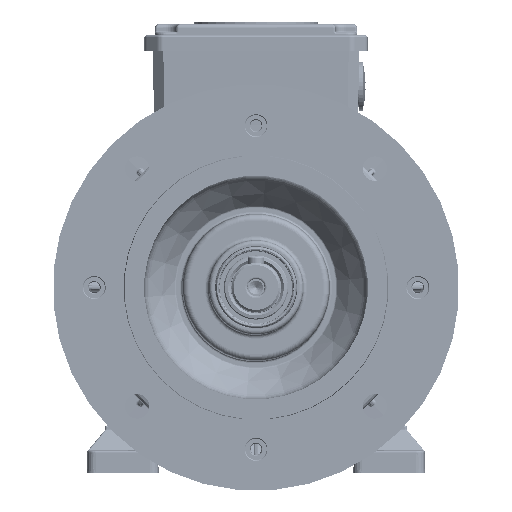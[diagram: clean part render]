
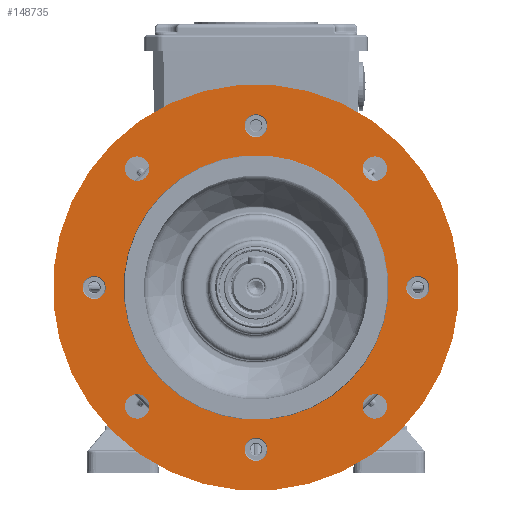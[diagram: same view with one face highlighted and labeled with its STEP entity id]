
A CAD part, left-side view. The second image highlights one B-rep face of the part: STEP entity #148735.
In plain terms, the highlighted planar face has unit normal (-1, 0, 0).
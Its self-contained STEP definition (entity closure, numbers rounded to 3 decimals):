
#46768=PLANE('',#192025);
#57397=EDGE_LOOP('',(#102225));
#57398=EDGE_LOOP('',(#102226));
#57399=EDGE_LOOP('',(#102227));
#57400=EDGE_LOOP('',(#102228));
#57401=EDGE_LOOP('',(#102229));
#57402=EDGE_LOOP('',(#102230));
#57403=EDGE_LOOP('',(#102231));
#57404=EDGE_LOOP('',(#102232));
#57405=EDGE_LOOP('',(#102233));
#57406=EDGE_LOOP('',(#102234));
#102225=ORIENTED_EDGE('',*,*,#131597,.T.);
#102226=ORIENTED_EDGE('',*,*,#131598,.T.);
#102227=ORIENTED_EDGE('',*,*,#131599,.T.);
#102228=ORIENTED_EDGE('',*,*,#131600,.T.);
#102229=ORIENTED_EDGE('',*,*,#131601,.T.);
#102230=ORIENTED_EDGE('',*,*,#131602,.T.);
#102231=ORIENTED_EDGE('',*,*,#131603,.T.);
#102232=ORIENTED_EDGE('',*,*,#131604,.T.);
#102233=ORIENTED_EDGE('',*,*,#131605,.T.);
#102234=ORIENTED_EDGE('',*,*,#131606,.F.);
#131597=EDGE_CURVE('',#164999,#164999,#174377,.T.);
#131598=EDGE_CURVE('',#165000,#165000,#174378,.T.);
#131599=EDGE_CURVE('',#165001,#165001,#174379,.T.);
#131600=EDGE_CURVE('',#165002,#165002,#174380,.T.);
#131601=EDGE_CURVE('',#165003,#165003,#174381,.T.);
#131602=EDGE_CURVE('',#165004,#165004,#174382,.T.);
#131603=EDGE_CURVE('',#165005,#165005,#174383,.T.);
#131604=EDGE_CURVE('',#165006,#165006,#174384,.T.);
#131605=EDGE_CURVE('',#165007,#165007,#174385,.T.);
#131606=EDGE_CURVE('',#165008,#165008,#174386,.T.);
#148735=ADVANCED_FACE('',(#151927,#151928,#151929,#151930,#151931,#151932,
#151933,#151934,#151935,#151936),#46768,.T.);
#151927=FACE_BOUND('',#57397,.T.);
#151928=FACE_BOUND('',#57398,.T.);
#151929=FACE_BOUND('',#57399,.T.);
#151930=FACE_BOUND('',#57400,.T.);
#151931=FACE_BOUND('',#57401,.T.);
#151932=FACE_BOUND('',#57402,.T.);
#151933=FACE_BOUND('',#57403,.T.);
#151934=FACE_BOUND('',#57404,.T.);
#151935=FACE_BOUND('',#57405,.T.);
#151936=FACE_BOUND('',#57406,.T.);
#164999=VERTEX_POINT('',#381032);
#165000=VERTEX_POINT('',#381034);
#165001=VERTEX_POINT('',#381036);
#165002=VERTEX_POINT('',#381038);
#165003=VERTEX_POINT('',#381040);
#165004=VERTEX_POINT('',#381042);
#165005=VERTEX_POINT('',#381044);
#165006=VERTEX_POINT('',#381046);
#165007=VERTEX_POINT('',#381048);
#165008=VERTEX_POINT('',#381050);
#174377=CIRCLE('',#192015,6.);
#174378=CIRCLE('',#192016,6.);
#174379=CIRCLE('',#192017,6.);
#174380=CIRCLE('',#192018,6.);
#174381=CIRCLE('',#192019,5.65);
#174382=CIRCLE('',#192020,5.65);
#174383=CIRCLE('',#192021,5.65);
#174384=CIRCLE('',#192022,5.65);
#174385=CIRCLE('',#192023,65.);
#174386=CIRCLE('',#192024,99.75);
#192015=AXIS2_PLACEMENT_3D('',#381031,#233141,#233142);
#192016=AXIS2_PLACEMENT_3D('',#381033,#233143,#233144);
#192017=AXIS2_PLACEMENT_3D('',#381035,#233145,#233146);
#192018=AXIS2_PLACEMENT_3D('',#381037,#233147,#233148);
#192019=AXIS2_PLACEMENT_3D('',#381039,#233149,#233150);
#192020=AXIS2_PLACEMENT_3D('',#381041,#233151,#233152);
#192021=AXIS2_PLACEMENT_3D('',#381043,#233153,#233154);
#192022=AXIS2_PLACEMENT_3D('',#381045,#233155,#233156);
#192023=AXIS2_PLACEMENT_3D('',#381047,#233157,#233158);
#192024=AXIS2_PLACEMENT_3D('',#381049,#233159,#233160);
#192025=AXIS2_PLACEMENT_3D('',#381051,#233161,#233162);
#233141=DIRECTION('',(1.,0.,0.));
#233142=DIRECTION('',(0.,0.707,0.707));
#233143=DIRECTION('',(1.,0.,0.));
#233144=DIRECTION('',(0.,-0.707,0.707));
#233145=DIRECTION('',(1.,0.,0.));
#233146=DIRECTION('',(0.,-0.707,-0.707));
#233147=DIRECTION('',(1.,0.,0.));
#233148=DIRECTION('',(0.,0.707,-0.707));
#233149=DIRECTION('',(1.,0.,0.));
#233150=DIRECTION('',(0.,-0.707,0.707));
#233151=DIRECTION('',(1.,0.,0.));
#233152=DIRECTION('',(0.,-0.707,0.707));
#233153=DIRECTION('',(1.,0.,0.));
#233154=DIRECTION('',(0.,-0.707,0.707));
#233155=DIRECTION('',(1.,0.,0.));
#233156=DIRECTION('',(0.,-0.707,0.707));
#233157=DIRECTION('',(1.,0.,0.));
#233158=DIRECTION('',(0.,0.707,-0.707));
#233159=DIRECTION('',(1.,0.,0.));
#233160=DIRECTION('',(0.,0.707,-0.707));
#233161=DIRECTION('',(-1.,0.,0.));
#233162=DIRECTION('',(0.,-0.707,0.707));
#381031=CARTESIAN_POINT('',(-51.499,76.606,24.074));
#381032=CARTESIAN_POINT('',(-51.499,80.849,28.317));
#381033=CARTESIAN_POINT('',(-51.499,76.606,140.747));
#381034=CARTESIAN_POINT('',(-51.499,72.363,144.99));
#381035=CARTESIAN_POINT('',(-51.499,-40.067,140.747));
#381036=CARTESIAN_POINT('',(-51.499,-44.309,136.504));
#381037=CARTESIAN_POINT('',(-51.499,-40.066,24.074));
#381038=CARTESIAN_POINT('',(-51.499,-35.824,19.832));
#381039=CARTESIAN_POINT('',(-51.499,18.27,161.811));
#381040=CARTESIAN_POINT('',(-51.499,14.275,165.806));
#381041=CARTESIAN_POINT('',(-51.499,97.67,82.411));
#381042=CARTESIAN_POINT('',(-51.499,93.675,86.406));
#381043=CARTESIAN_POINT('',(-51.499,18.27,3.011));
#381044=CARTESIAN_POINT('',(-51.499,14.275,7.006));
#381045=CARTESIAN_POINT('',(-51.499,-61.13,82.41));
#381046=CARTESIAN_POINT('',(-51.499,-65.125,86.406));
#381047=CARTESIAN_POINT('',(-51.499,18.27,82.411));
#381048=CARTESIAN_POINT('',(-51.499,64.232,36.449));
#381049=CARTESIAN_POINT('',(-51.499,18.27,82.411));
#381050=CARTESIAN_POINT('',(-51.499,88.804,11.877));
#381051=CARTESIAN_POINT('',(-51.499,18.27,82.411));
